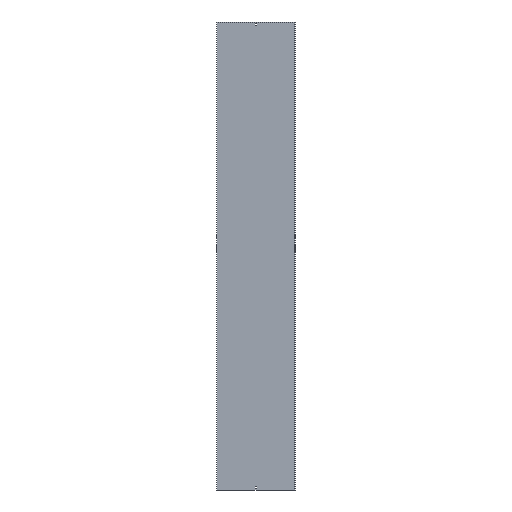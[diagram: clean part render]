
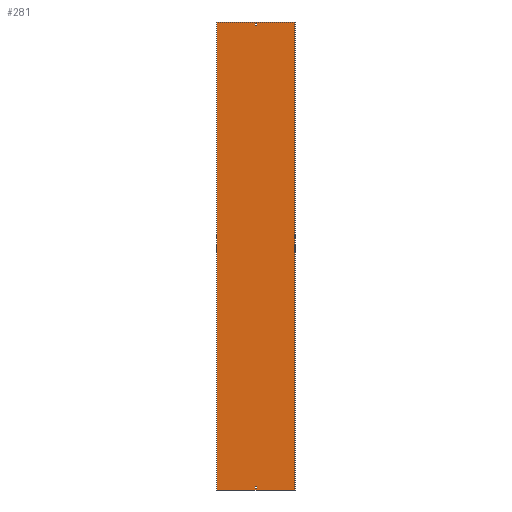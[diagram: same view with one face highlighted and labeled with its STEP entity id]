
A CAD part, front view. The second image highlights one B-rep face of the part: STEP entity #281.
In plain terms, the highlighted planar face has unit normal (0, -1, 0).
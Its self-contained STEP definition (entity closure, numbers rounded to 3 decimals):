
#1 = VERTEX_POINT ( 'NONE', #469 ) ;
#2 = CARTESIAN_POINT ( 'NONE',  ( -251.5, -1.5, -1479. ) ) ;
#3 = CARTESIAN_POINT ( 'NONE',  ( -3.25, -1.5, -1488. ) ) ;
#9 = EDGE_CURVE ( 'NONE', #1, #289, #285, .T. ) ;
#12 = CARTESIAN_POINT ( 'NONE',  ( 3.25, -1.5, 1479. ) ) ;
#13 = CARTESIAN_POINT ( 'NONE',  ( -250., -1.5, -1500. ) ) ;
#15 = VECTOR ( 'NONE', #323, 1000. ) ;
#27 = EDGE_LOOP ( 'NONE', ( #566, #59, #52, #156 ) ) ;
#28 = ORIENTED_EDGE ( 'NONE', *, *, #446, .F. ) ;
#39 = CARTESIAN_POINT ( 'NONE',  ( -3.25, -1.5, 1479. ) ) ;
#46 = DIRECTION ( 'NONE',  ( 0., 0., -1. ) ) ;
#47 = EDGE_CURVE ( 'NONE', #289, #159, #162, .T. ) ;
#52 = ORIENTED_EDGE ( 'NONE', *, *, #146, .T. ) ;
#59 = ORIENTED_EDGE ( 'NONE', *, *, #9, .F. ) ;
#69 = EDGE_CURVE ( 'NONE', #433, #463, #541, .T. ) ;
#75 = LINE ( 'NONE', #404, #529 ) ;
#77 = CARTESIAN_POINT ( 'NONE',  ( -251.5, -1.5, 1479. ) ) ;
#86 = CARTESIAN_POINT ( 'NONE',  ( 3.25, -1.5, 1500. ) ) ;
#92 = DIRECTION ( 'NONE',  ( 0., -1., 0. ) ) ;
#105 = VERTEX_POINT ( 'NONE', #401 ) ;
#107 = FACE_BOUND ( 'NONE', #531, .T. ) ;
#116 = VERTEX_POINT ( 'NONE', #268 ) ;
#132 = LINE ( 'NONE', #86, #252 ) ;
#133 = DIRECTION ( 'NONE',  ( 0., 0., 1. ) ) ;
#138 = EDGE_CURVE ( 'NONE', #167, #105, #358, .T. ) ;
#146 = EDGE_CURVE ( 'NONE', #1, #116, #456, .T. ) ;
#147 = ORIENTED_EDGE ( 'NONE', *, *, #485, .F. ) ;
#149 = CARTESIAN_POINT ( 'NONE',  ( 250., -1.5, 1500. ) ) ;
#156 = ORIENTED_EDGE ( 'NONE', *, *, #178, .T. ) ;
#159 = VERTEX_POINT ( 'NONE', #13 ) ;
#162 = LINE ( 'NONE', #344, #506 ) ;
#167 = VERTEX_POINT ( 'NONE', #3 ) ;
#173 = VECTOR ( 'NONE', #133, 1000. ) ;
#178 = EDGE_CURVE ( 'NONE', #116, #159, #509, .T. ) ;
#183 = LINE ( 'NONE', #584, #455 ) ;
#185 = CARTESIAN_POINT ( 'NONE',  ( 250., -1.5, -1500. ) ) ;
#196 = LINE ( 'NONE', #431, #238 ) ;
#207 = DIRECTION ( 'NONE',  ( -1., 0., 0. ) ) ;
#214 = DIRECTION ( 'NONE',  ( 1., 0., 0. ) ) ;
#218 = CARTESIAN_POINT ( 'NONE',  ( -3.25, -1.5, 1500. ) ) ;
#238 = VECTOR ( 'NONE', #380, 1000. ) ;
#241 = CARTESIAN_POINT ( 'NONE',  ( 3.25, -1.5, 1488. ) ) ;
#249 = LINE ( 'NONE', #304, #589 ) ;
#250 = AXIS2_PLACEMENT_3D ( 'NONE', #470, #92, #333 ) ;
#252 = VECTOR ( 'NONE', #547, 1000. ) ;
#253 = VERTEX_POINT ( 'NONE', #417 ) ;
#255 = ORIENTED_EDGE ( 'NONE', *, *, #364, .F. ) ;
#260 = DIRECTION ( 'NONE',  ( -1., 0., 0. ) ) ;
#268 = CARTESIAN_POINT ( 'NONE',  ( -250., -1.5, 1500. ) ) ;
#281 = ADVANCED_FACE ( 'NONE', ( #429, #564, #107 ), #559, .T. ) ;
#285 = LINE ( 'NONE', #149, #451 ) ;
#289 = VERTEX_POINT ( 'NONE', #185 ) ;
#291 = EDGE_CURVE ( 'NONE', #105, #530, #409, .T. ) ;
#295 = ORIENTED_EDGE ( 'NONE', *, *, #138, .T. ) ;
#304 = CARTESIAN_POINT ( 'NONE',  ( -251.5, -1.5, 1488. ) ) ;
#311 = CARTESIAN_POINT ( 'NONE',  ( -3.25, -1.5, 1488. ) ) ;
#315 = CARTESIAN_POINT ( 'NONE',  ( -251.5, -1.5, 1500. ) ) ;
#323 = DIRECTION ( 'NONE',  ( 1., 0., 0. ) ) ;
#324 = VECTOR ( 'NONE', #430, 1000. ) ;
#327 = ORIENTED_EDGE ( 'NONE', *, *, #543, .T. ) ;
#333 = DIRECTION ( 'NONE',  ( 0., 0., -1. ) ) ;
#340 = VERTEX_POINT ( 'NONE', #241 ) ;
#344 = CARTESIAN_POINT ( 'NONE',  ( -251.5, -1.5, -1500. ) ) ;
#347 = VECTOR ( 'NONE', #46, 1000. ) ;
#358 = LINE ( 'NONE', #218, #173 ) ;
#364 = EDGE_CURVE ( 'NONE', #377, #433, #75, .T. ) ;
#370 = CARTESIAN_POINT ( 'NONE',  ( 3.25, -1.5, -1479. ) ) ;
#377 = VERTEX_POINT ( 'NONE', #311 ) ;
#380 = DIRECTION ( 'NONE',  ( 0., 0., -1. ) ) ;
#384 = ORIENTED_EDGE ( 'NONE', *, *, #536, .T. ) ;
#401 = CARTESIAN_POINT ( 'NONE',  ( -3.25, -1.5, -1479. ) ) ;
#404 = CARTESIAN_POINT ( 'NONE',  ( -3.25, -1.5, 1500. ) ) ;
#409 = LINE ( 'NONE', #2, #15 ) ;
#417 = CARTESIAN_POINT ( 'NONE',  ( 3.25, -1.5, -1488. ) ) ;
#429 = FACE_BOUND ( 'NONE', #447, .T. ) ;
#430 = DIRECTION ( 'NONE',  ( -1., 0., 0. ) ) ;
#431 = CARTESIAN_POINT ( 'NONE',  ( 3.25, -1.5, 1500. ) ) ;
#433 = VERTEX_POINT ( 'NONE', #39 ) ;
#435 = DIRECTION ( 'NONE',  ( -1., 0., 0. ) ) ;
#446 = EDGE_CURVE ( 'NONE', #463, #340, #132, .T. ) ;
#447 = EDGE_LOOP ( 'NONE', ( #255, #147, #28, #560 ) ) ;
#448 = VECTOR ( 'NONE', #214, 1000. ) ;
#451 = VECTOR ( 'NONE', #461, 1000. ) ;
#455 = VECTOR ( 'NONE', #260, 1000. ) ;
#456 = LINE ( 'NONE', #315, #324 ) ;
#461 = DIRECTION ( 'NONE',  ( 0., 0., -1. ) ) ;
#463 = VERTEX_POINT ( 'NONE', #12 ) ;
#469 = CARTESIAN_POINT ( 'NONE',  ( 250., -1.5, 1500. ) ) ;
#470 = CARTESIAN_POINT ( 'NONE',  ( -251.5, -1.5, 1500. ) ) ;
#485 = EDGE_CURVE ( 'NONE', #340, #377, #249, .T. ) ;
#506 = VECTOR ( 'NONE', #435, 1000. ) ;
#509 = LINE ( 'NONE', #524, #347 ) ;
#524 = CARTESIAN_POINT ( 'NONE',  ( -250., -1.5, 1500. ) ) ;
#529 = VECTOR ( 'NONE', #585, 1000. ) ;
#530 = VERTEX_POINT ( 'NONE', #370 ) ;
#531 = EDGE_LOOP ( 'NONE', ( #327, #295, #563, #384 ) ) ;
#536 = EDGE_CURVE ( 'NONE', #530, #253, #196, .T. ) ;
#541 = LINE ( 'NONE', #77, #448 ) ;
#543 = EDGE_CURVE ( 'NONE', #253, #167, #183, .T. ) ;
#547 = DIRECTION ( 'NONE',  ( 0., 0., 1. ) ) ;
#559 = PLANE ( 'NONE',  #250 ) ;
#560 = ORIENTED_EDGE ( 'NONE', *, *, #69, .F. ) ;
#563 = ORIENTED_EDGE ( 'NONE', *, *, #291, .T. ) ;
#564 = FACE_OUTER_BOUND ( 'NONE', #27, .T. ) ;
#566 = ORIENTED_EDGE ( 'NONE', *, *, #47, .F. ) ;
#584 = CARTESIAN_POINT ( 'NONE',  ( -251.5, -1.5, -1488. ) ) ;
#585 = DIRECTION ( 'NONE',  ( 0., 0., -1. ) ) ;
#589 = VECTOR ( 'NONE', #207, 1000. ) ;
